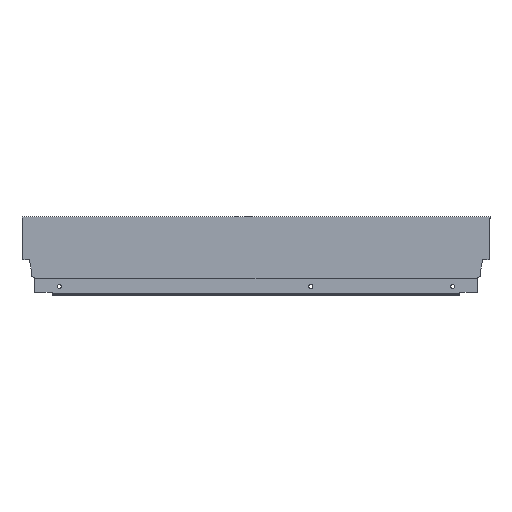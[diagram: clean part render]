
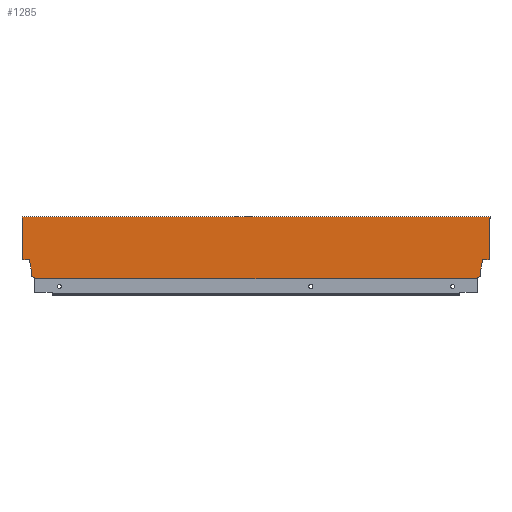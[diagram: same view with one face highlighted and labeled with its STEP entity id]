
A CAD part, top view. The second image highlights one B-rep face of the part: STEP entity #1285.
In plain terms, the highlighted planar face has unit normal (0, 0, 1).
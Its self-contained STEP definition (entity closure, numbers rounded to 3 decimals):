
#112 = VECTOR ( 'NONE', #1151, 1000. ) ;
#116 = VECTOR ( 'NONE', #1147, 1000. ) ;
#119 = LINE ( 'NONE', #1146, #112 ) ;
#120 = VECTOR ( 'NONE', #1143, 1000. ) ;
#121 = LINE ( 'NONE', #1144, #116 ) ;
#122 = VECTOR ( 'NONE', #1141, 1000. ) ;
#123 = VECTOR ( 'NONE', #1139, 1000. ) ;
#124 = LINE ( 'NONE', #1138, #123 ) ;
#126 = VECTOR ( 'NONE', #1137, 1000. ) ;
#127 = VECTOR ( 'NONE', #1135, 1000. ) ;
#128 = LINE ( 'NONE', #1134, #127 ) ;
#129 = LINE ( 'NONE', #1140, #120 ) ;
#130 = VECTOR ( 'NONE', #1133, 1000. ) ;
#131 = LINE ( 'NONE', #1136, #122 ) ;
#132 = VECTOR ( 'NONE', #1131, 1000. ) ;
#133 = VECTOR ( 'NONE', #1129, 1000. ) ;
#134 = LINE ( 'NONE', #1128, #133 ) ;
#135 = LINE ( 'NONE', #1132, #126 ) ;
#136 = VECTOR ( 'NONE', #1127, 1000. ) ;
#137 = LINE ( 'NONE', #1130, #130 ) ;
#138 = VECTOR ( 'NONE', #1125, 1000. ) ;
#139 = LINE ( 'NONE', #1126, #132 ) ;
#140 = VECTOR ( 'NONE', #1123, 1000. ) ;
#141 = VECTOR ( 'NONE', #1121, 1000. ) ;
#142 = LINE ( 'NONE', #1120, #141 ) ;
#145 = LINE ( 'NONE', #1124, #136 ) ;
#146 = VECTOR ( 'NONE', #1117, 1000. ) ;
#147 = LINE ( 'NONE', #1122, #138 ) ;
#149 = VECTOR ( 'NONE', #1115, 1000. ) ;
#151 = LINE ( 'NONE', #1106, #153 ) ;
#153 = VECTOR ( 'NONE', #1113, 1000. ) ;
#154 = LINE ( 'NONE', #1116, #140 ) ;
#156 = LINE ( 'NONE', #1114, #146 ) ;
#158 = LINE ( 'NONE', #1112, #149 ) ;
#261 = FACE_OUTER_BOUND ( 'NONE', #272, .T. ) ;
#272 = EDGE_LOOP ( 'NONE', ( #435, #554, #599, #518, #516, #514, #483, #565, #541, #341, #475, #582, #573, #505, #506, #507, #508, #509 ) ) ;
#341 = ORIENTED_EDGE ( 'NONE', *, *, #1496, .T. ) ;
#435 = ORIENTED_EDGE ( 'NONE', *, *, #1502, .F. ) ;
#475 = ORIENTED_EDGE ( 'NONE', *, *, #1508, .F. ) ;
#483 = ORIENTED_EDGE ( 'NONE', *, *, #1504, .F. ) ;
#505 = ORIENTED_EDGE ( 'NONE', *, *, #1509, .F. ) ;
#506 = ORIENTED_EDGE ( 'NONE', *, *, #1511, .F. ) ;
#507 = ORIENTED_EDGE ( 'NONE', *, *, #1617, .F. ) ;
#508 = ORIENTED_EDGE ( 'NONE', *, *, #1513, .F. ) ;
#509 = ORIENTED_EDGE ( 'NONE', *, *, #1515, .F. ) ;
#514 = ORIENTED_EDGE ( 'NONE', *, *, #1497, .F. ) ;
#516 = ORIENTED_EDGE ( 'NONE', *, *, #1500, .F. ) ;
#518 = ORIENTED_EDGE ( 'NONE', *, *, #1503, .T. ) ;
#541 = ORIENTED_EDGE ( 'NONE', *, *, #1506, .F. ) ;
#554 = ORIENTED_EDGE ( 'NONE', *, *, #1501, .F. ) ;
#565 = ORIENTED_EDGE ( 'NONE', *, *, #1505, .F. ) ;
#573 = ORIENTED_EDGE ( 'NONE', *, *, #1507, .F. ) ;
#582 = ORIENTED_EDGE ( 'NONE', *, *, #1510, .F. ) ;
#599 = ORIENTED_EDGE ( 'NONE', *, *, #1498, .T. ) ;
#737 = LINE ( 'NONE', #1415, #738 ) ;
#738 = VECTOR ( 'NONE', #1416, 1000. ) ;
#754 = DIRECTION ( 'NONE',  ( 1., 0., 0. ) ) ;
#755 = DIRECTION ( 'NONE',  ( 0., 0., 1. ) ) ;
#760 = PLANE ( 'NONE',  #1624 ) ;
#769 = CARTESIAN_POINT ( 'NONE',  ( -511., 0., 7.5 ) ) ;
#774 = CARTESIAN_POINT ( 'NONE',  ( -8.9, 10.765, 7.5 ) ) ;
#776 = CARTESIAN_POINT ( 'NONE',  ( -13.004, 0., 7.5 ) ) ;
#778 = CARTESIAN_POINT ( 'NONE',  ( -7.06, 21.2, 7.5 ) ) ;
#782 = CARTESIAN_POINT ( 'NONE',  ( -512., 68., 7.5 ) ) ;
#788 = CARTESIAN_POINT ( 'NONE',  ( 0., 66.5, 7.5 ) ) ;
#791 = CARTESIAN_POINT ( 'NONE',  ( 1., 66.5, 7.5 ) ) ;
#797 = CARTESIAN_POINT ( 'NONE',  ( -512., 66.5, 7.5 ) ) ;
#815 = CARTESIAN_POINT ( 'NONE',  ( -497.996, 1.146, 7.5 ) ) ;
#838 = VERTEX_POINT ( 'NONE', #1659 ) ;
#852 = VERTEX_POINT ( 'NONE', #815 ) ;
#870 = VERTEX_POINT ( 'NONE', #797 ) ;
#876 = VERTEX_POINT ( 'NONE', #791 ) ;
#879 = VERTEX_POINT ( 'NONE', #788 ) ;
#885 = VERTEX_POINT ( 'NONE', #782 ) ;
#889 = VERTEX_POINT ( 'NONE', #778 ) ;
#891 = VERTEX_POINT ( 'NONE', #776 ) ;
#893 = VERTEX_POINT ( 'NONE', #774 ) ;
#1106 = CARTESIAN_POINT ( 'NONE',  ( -511., 0., 7.5 ) ) ;
#1112 = CARTESIAN_POINT ( 'NONE',  ( -503.94, 21.2, 7.5 ) ) ;
#1113 = DIRECTION ( 'NONE',  ( 1., 0., 0. ) ) ;
#1114 = CARTESIAN_POINT ( 'NONE',  ( -512., 66.5, 7.5 ) ) ;
#1115 = DIRECTION ( 'NONE',  ( -0.174, 0.985, 0. ) ) ;
#1116 = CARTESIAN_POINT ( 'NONE',  ( -512., 66.5, 7.5 ) ) ;
#1117 = DIRECTION ( 'NONE',  ( 1., 0., 0. ) ) ;
#1120 = CARTESIAN_POINT ( 'NONE',  ( -516., 21.2, 7.5 ) ) ;
#1121 = DIRECTION ( 'NONE',  ( -1., 0., 0. ) ) ;
#1122 = CARTESIAN_POINT ( 'NONE',  ( -511., 68., 7.5 ) ) ;
#1123 = DIRECTION ( 'NONE',  ( 0., 1., 0. ) ) ;
#1124 = CARTESIAN_POINT ( 'NONE',  ( -511., 0., 7.5 ) ) ;
#1125 = DIRECTION ( 'NONE',  ( 1., 0., 0. ) ) ;
#1126 = CARTESIAN_POINT ( 'NONE',  ( -502.1, 2.64, 7.5 ) ) ;
#1127 = DIRECTION ( 'NONE',  ( 0., -1., 0. ) ) ;
#1128 = CARTESIAN_POINT ( 'NONE',  ( -502.1, 10.765, 7.5 ) ) ;
#1129 = DIRECTION ( 'NONE',  ( 0., 1., 0. ) ) ;
#1130 = CARTESIAN_POINT ( 'NONE',  ( -497.996, 1.146, 7.5 ) ) ;
#1131 = DIRECTION ( 'NONE',  ( -0.94, 0.342, 0. ) ) ;
#1132 = CARTESIAN_POINT ( 'NONE',  ( -13.004, 1.146, 7.5 ) ) ;
#1133 = DIRECTION ( 'NONE',  ( 0., 1., 0. ) ) ;
#1134 = CARTESIAN_POINT ( 'NONE',  ( -8.9, 10.765, 7.5 ) ) ;
#1135 = DIRECTION ( 'NONE',  ( 0., -1., 0. ) ) ;
#1136 = CARTESIAN_POINT ( 'NONE',  ( -8.9, 2.64, 7.5 ) ) ;
#1137 = DIRECTION ( 'NONE',  ( 0., -1., 0. ) ) ;
#1138 = CARTESIAN_POINT ( 'NONE',  ( -7.06, 21.2, 7.5 ) ) ;
#1139 = DIRECTION ( 'NONE',  ( -0.174, -0.985, 0. ) ) ;
#1140 = CARTESIAN_POINT ( 'NONE',  ( 0., 21.2, 7.5 ) ) ;
#1141 = DIRECTION ( 'NONE',  ( -0.94, -0.342, 0. ) ) ;
#1143 = DIRECTION ( 'NONE',  ( -1., 0., 0. ) ) ;
#1144 = CARTESIAN_POINT ( 'NONE',  ( 1., 66.5, 7.5 ) ) ;
#1146 = CARTESIAN_POINT ( 'NONE',  ( 1., 68., 7.5 ) ) ;
#1147 = DIRECTION ( 'NONE',  ( -1., 0., 0. ) ) ;
#1151 = DIRECTION ( 'NONE',  ( 0., -1., 0. ) ) ;
#1285 = ADVANCED_FACE ( 'NONE', ( #261 ), #760, .T. ) ;
#1415 = CARTESIAN_POINT ( 'NONE',  ( 0., 0., 7.5 ) ) ;
#1416 = DIRECTION ( 'NONE',  ( 0., -1., 0. ) ) ;
#1431 = CARTESIAN_POINT ( 'NONE',  ( -502.1, 2.64, 7.5 ) ) ;
#1435 = CARTESIAN_POINT ( 'NONE',  ( 0., 21.2, 7.5 ) ) ;
#1436 = CARTESIAN_POINT ( 'NONE',  ( -503.94, 21.2, 7.5 ) ) ;
#1443 = CARTESIAN_POINT ( 'NONE',  ( -502.1, 10.765, 7.5 ) ) ;
#1445 = CARTESIAN_POINT ( 'NONE',  ( -8.9, 2.64, 7.5 ) ) ;
#1450 = CARTESIAN_POINT ( 'NONE',  ( -511., 21.2, 7.5 ) ) ;
#1451 = CARTESIAN_POINT ( 'NONE',  ( -511., 66.5, 7.5 ) ) ;
#1456 = CARTESIAN_POINT ( 'NONE',  ( 1., 68., 7.5 ) ) ;
#1457 = CARTESIAN_POINT ( 'NONE',  ( -13.004, 1.146, 7.5 ) ) ;
#1496 = EDGE_CURVE ( 'NONE', #838, #891, #151, .T. ) ;
#1497 = EDGE_CURVE ( 'NONE', #1660, #1652, #158, .T. ) ;
#1498 = EDGE_CURVE ( 'NONE', #870, #1668, #156, .T. ) ;
#1500 = EDGE_CURVE ( 'NONE', #1652, #1667, #142, .T. ) ;
#1501 = EDGE_CURVE ( 'NONE', #870, #885, #154, .T. ) ;
#1502 = EDGE_CURVE ( 'NONE', #885, #1673, #147, .T. ) ;
#1503 = EDGE_CURVE ( 'NONE', #1668, #1667, #145, .T. ) ;
#1504 = EDGE_CURVE ( 'NONE', #1646, #1660, #134, .T. ) ;
#1505 = EDGE_CURVE ( 'NONE', #852, #1646, #139, .T. ) ;
#1506 = EDGE_CURVE ( 'NONE', #838, #852, #137, .T. ) ;
#1507 = EDGE_CURVE ( 'NONE', #893, #1662, #128, .T. ) ;
#1508 = EDGE_CURVE ( 'NONE', #1674, #891, #135, .T. ) ;
#1509 = EDGE_CURVE ( 'NONE', #889, #893, #124, .T. ) ;
#1510 = EDGE_CURVE ( 'NONE', #1662, #1674, #131, .T. ) ;
#1511 = EDGE_CURVE ( 'NONE', #1651, #889, #129, .T. ) ;
#1513 = EDGE_CURVE ( 'NONE', #876, #879, #121, .T. ) ;
#1515 = EDGE_CURVE ( 'NONE', #1673, #876, #119, .T. ) ;
#1617 = EDGE_CURVE ( 'NONE', #879, #1651, #737, .T. ) ;
#1624 = AXIS2_PLACEMENT_3D ( 'NONE', #769, #755, #754 ) ;
#1646 = VERTEX_POINT ( 'NONE', #1431 ) ;
#1651 = VERTEX_POINT ( 'NONE', #1435 ) ;
#1652 = VERTEX_POINT ( 'NONE', #1436 ) ;
#1659 = CARTESIAN_POINT ( 'NONE',  ( -497.996, 0., 7.5 ) ) ;
#1660 = VERTEX_POINT ( 'NONE', #1443 ) ;
#1662 = VERTEX_POINT ( 'NONE', #1445 ) ;
#1667 = VERTEX_POINT ( 'NONE', #1450 ) ;
#1668 = VERTEX_POINT ( 'NONE', #1451 ) ;
#1673 = VERTEX_POINT ( 'NONE', #1456 ) ;
#1674 = VERTEX_POINT ( 'NONE', #1457 ) ;
